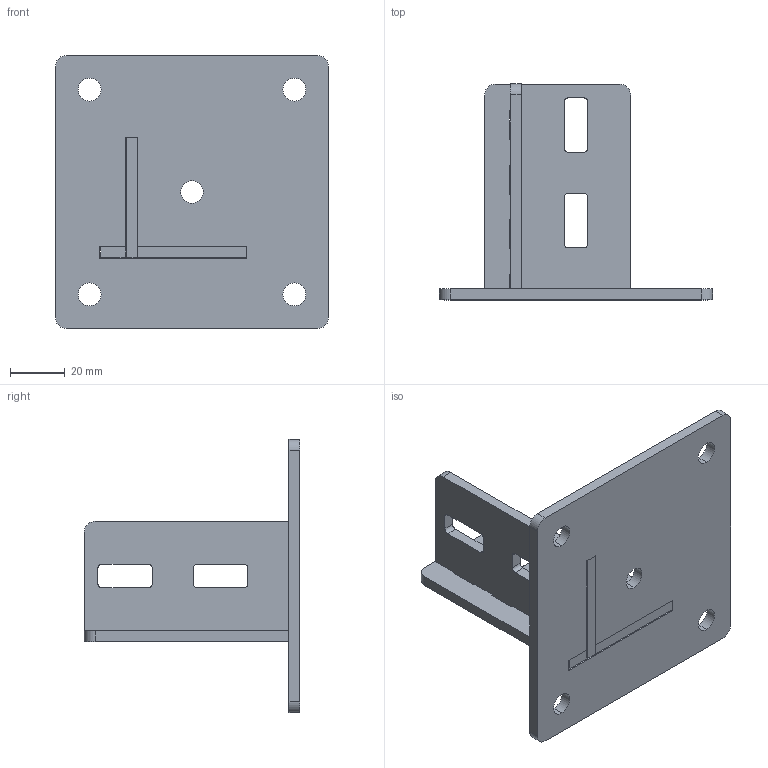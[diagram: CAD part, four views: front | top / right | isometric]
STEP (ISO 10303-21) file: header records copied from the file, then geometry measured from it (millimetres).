
FILE_DESCRIPTION (( 'STEP AP203' ), '1' );
FILE_NAME ('Ñáîðêà 11401.STEP', '2016-08-02T12:08:29', ( '' ), ( '' ), 'SwSTEP 2.0', 'SolidWorks 2014', '' );
FILE_SCHEMA (( 'CONFIG_CONTROL_DESIGN' ));
Length unit declared in the file: millimetre
Products named in the file (7): 11401-1; 11401-2; 11401-3; 11401
Assembly tree (3 placements, depth 2):
  11401-1
  11401-2
  11401-3
  11401
    11401-1
    11401-2
    11401-3
Bounding box: 100 x 79 x 100 mm (x, y, z)
Volume: 63861.3 mm3; surface area: 38240.7 mm2
Topology: 3 solids, 3 shells, 105 faces, 297 edges, 198 vertices
Faces by surface type: plane 72, cylinder 33
Entity records: 4089 total; most frequent: CARTESIAN_POINT 607, ORIENTED_EDGE 594, DIRECTION 587, EDGE_CURVE 297, VECTOR 231, LINE 231, VERTEX_POINT 198, AXIS2_PLACEMENT_3D 178
